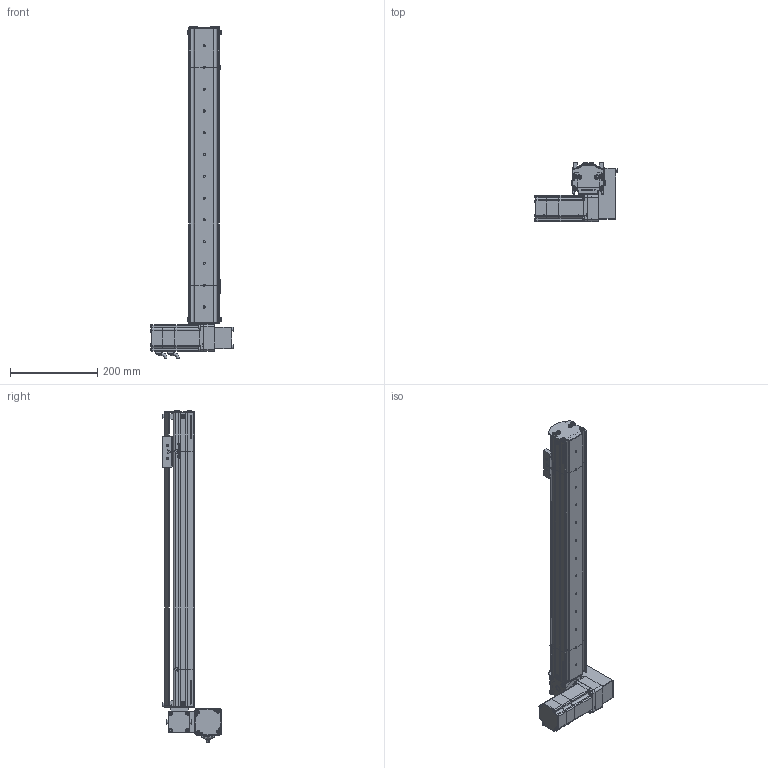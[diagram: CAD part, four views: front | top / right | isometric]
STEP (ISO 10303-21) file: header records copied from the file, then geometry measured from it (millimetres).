
FILE_DESCRIPTION (( 'STEP AP214' ), '1' );
FILE_NAME ('S07 TBN LU S500.STEP', '2010-06-29T11:29:03', ( 'Conseil Régional Haute-Normandie' ), ( 'Conseil Régional Haute-Normandie' ), 'SwSTEP 2.0', 'SolidWorks 2010', '' );
FILE_SCHEMA (( 'AUTOMOTIVE_DESIGN' ));
Length unit declared in the file: millimetre
Products named in the file (41): S07 TBN LU S500; CHariot_Default; couroie tail_Default; vis M5 L12_Default; vis M5 L16_Default; Chariot; guide; Poulie_Default; T皻e de poulie_Default; couvercle tail TB; plaque de bout_Default; corp tail TB_Default; S07 TB tail (78)_Default; Course C L500_Default; Couroie  course 500_Default; Vis M5 L16-2_Default; Corp S07 course 500_Default; Conecteur 60BLDC_Default; Axe 60BLDC_Default; Cvis M5 L30_Default; VisM3_Default; Conecteur2 60BLDC_Default; P4_Default; S07 LU(146)_Default; couvercle S07 course 500 ; P1_Default; plaque de bout LU_Default; corp moteur TB(146)_Default; P3 90A_Default; P2 90A_Default; couvercle moteur S07 TB; GMB 60 90 310_Default; renvoi LU_Default; cache t皻e axe_Default; Plaque racord_Default; Couroie t皻e_Default; Poulie head_Default; Pièce5^S07 LU(146); vis M5 L5_Default; cache t皻e_Default
Assembly tree (80 placements, depth 4):
  S07 TBN LU S500
    Course C L500_Default
      Corp S07 course 500_Default
      couvercle S07 course 500 
      Couroie  course 500_Default
    S07 LU(146)_Default
      Plaque racord_Default
      vis M5 L5_Default  x6
      couvercle moteur S07 TB
      Vis M5 L16-2_Default  x8
      vis M5 L12_Default  x6
      cache t皻e axe_Default
      plaque de bout LU_Default
      Cvis M5 L30_Default  x2
      renvoi LU_Default
      Poulie head_Default
      cache t皻e_Default  x2
      corp moteur TB(146)_Default
      Couroie t皻e_Default
      GMB 60 90 310_Default
        P4_Default
        VisM3_Default  x12
        Conecteur2 60BLDC_Default
        P1_Default
        P3 90A_Default
        Conecteur 60BLDC_Default
        P2 90A_Default
        Axe 60BLDC_Default
    CHariot_Default
      vis M5 L16_Default  x2
      guide
      Chariot
    S07 TB tail (78)_Default
      vis M5 L12_Default  x10
      couroie tail_Default
      plaque de bout_Default
      Poulie_Default
        Poulie_Default
        T皻e de poulie_Default
      corp tail TB_Default
      couvercle tail TB
  Pièce5^S07 LU(146)
Bounding box: 190.2 x 134.7 x 762 mm (x, y, z)
Volume: 1862629.4 mm3; surface area: 757482.3 mm2
Topology: 102 solids, 102 shells, 3904 faces, 9744 edges, 6293 vertices
Faces by surface type: plane 2224, cylinder 750, bspline 677, cone 125, torus 124, sphere 4
Entity records: 166817 total; most frequent: CARTESIAN_POINT 75135, ORIENTED_EDGE 15400, DIRECTION 12215, EDGE_CURVE 7700, VERTEX_POINT 5081, LINE 5037, VECTOR 5037, AXIS2_PLACEMENT_3D 3589
